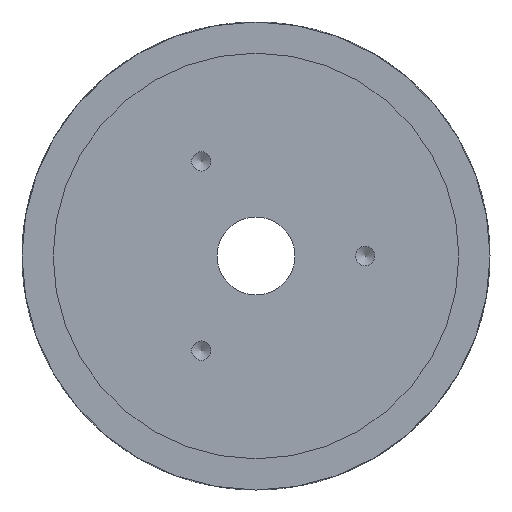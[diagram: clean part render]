
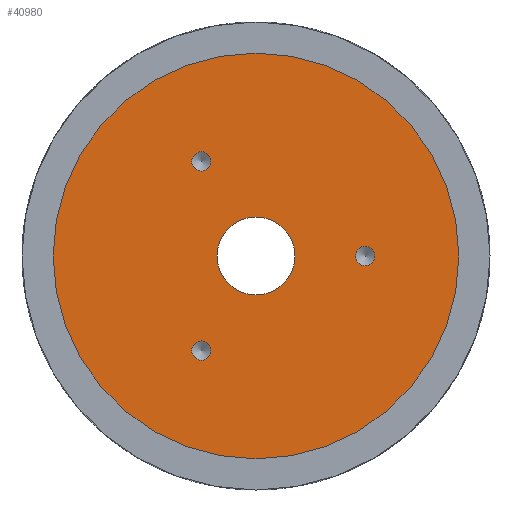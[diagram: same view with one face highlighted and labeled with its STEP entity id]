
A CAD part, left-side view. The second image highlights one B-rep face of the part: STEP entity #40980.
In plain terms, the highlighted planar face has unit normal (-1, 0, 0).
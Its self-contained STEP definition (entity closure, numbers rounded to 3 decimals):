
#22987=CARTESIAN_POINT('',(1.6,26.,0.0));
#22988=VERTEX_POINT('',#22987);
#22989=CARTESIAN_POINT('',(1.6,0.,0.0));
#22990=DIRECTION('',(1.0,0.0,0.0));
#22991=DIRECTION('',(0.0,1.0,0.0));
#22992=AXIS2_PLACEMENT_3D('',#22989,#22990,#22991);
#22993=CIRCLE('',#22992,26.);
#22994=EDGE_CURVE('',#22988,#22988,#22993,.T.);
#40029=CARTESIAN_POINT('',(1.6,7.,-10.895));
#40030=VERTEX_POINT('',#40029);
#40031=CARTESIAN_POINT('',(1.6,7.,-12.124));
#40032=DIRECTION('',(1.0,0.0,0.0));
#40033=DIRECTION('',(0.0,0.0,1.0));
#40034=AXIS2_PLACEMENT_3D('',#40031,#40032,#40033);
#40035=CIRCLE('',#40034,1.23);
#40036=EDGE_CURVE('',#40030,#40030,#40035,.T.);
#40108=CARTESIAN_POINT('',(1.6,7.0,13.354));
#40109=VERTEX_POINT('',#40108);
#40110=CARTESIAN_POINT('',(1.6,7.0,12.124));
#40111=DIRECTION('',(1.0,0.0,0.0));
#40112=DIRECTION('',(0.0,0.0,1.0));
#40113=AXIS2_PLACEMENT_3D('',#40110,#40111,#40112);
#40114=CIRCLE('',#40113,1.23);
#40115=EDGE_CURVE('',#40109,#40109,#40114,.T.);
#40187=CARTESIAN_POINT('',(1.6,-14.0,1.23));
#40188=VERTEX_POINT('',#40187);
#40189=CARTESIAN_POINT('',(1.6,-14.0,0.0));
#40190=DIRECTION('',(1.0,0.0,0.0));
#40191=DIRECTION('',(0.0,0.0,1.0));
#40192=AXIS2_PLACEMENT_3D('',#40189,#40190,#40191);
#40193=CIRCLE('',#40192,1.23);
#40194=EDGE_CURVE('',#40188,#40188,#40193,.T.);
#40945=CARTESIAN_POINT('',(1.6,5.,0.0));
#40946=VERTEX_POINT('',#40945);
#40947=CARTESIAN_POINT('',(1.6,0.,0.0));
#40948=DIRECTION('',(1.0,0.0,0.0));
#40949=DIRECTION('',(0.0,1.0,0.0));
#40950=AXIS2_PLACEMENT_3D('',#40947,#40948,#40949);
#40951=CIRCLE('',#40950,5.);
#40952=EDGE_CURVE('',#40946,#40946,#40951,.T.);
#40960=CARTESIAN_POINT('',(1.6,15.5,0.0));
#40961=DIRECTION('',(-1.0,0.0,0.0));
#40962=DIRECTION('',(0.0,0.0,1.0));
#40963=AXIS2_PLACEMENT_3D('',#40960,#40961,#40962);
#40964=PLANE('',#40963);
#40965=ORIENTED_EDGE('',*,*,#22994,.F.);
#40966=EDGE_LOOP('',(#40965));
#40967=FACE_OUTER_BOUND('',#40966,.T.);
#40968=ORIENTED_EDGE('',*,*,#40036,.T.);
#40969=EDGE_LOOP('',(#40968));
#40970=FACE_BOUND('',#40969,.T.);
#40971=ORIENTED_EDGE('',*,*,#40115,.T.);
#40972=EDGE_LOOP('',(#40971));
#40973=FACE_BOUND('',#40972,.T.);
#40974=ORIENTED_EDGE('',*,*,#40194,.T.);
#40975=EDGE_LOOP('',(#40974));
#40976=FACE_BOUND('',#40975,.T.);
#40977=ORIENTED_EDGE('',*,*,#40952,.T.);
#40978=EDGE_LOOP('',(#40977));
#40979=FACE_BOUND('',#40978,.T.);
#40980=ADVANCED_FACE('',(#40967,#40970,#40973,#40976,#40979),#40964,.T.);
